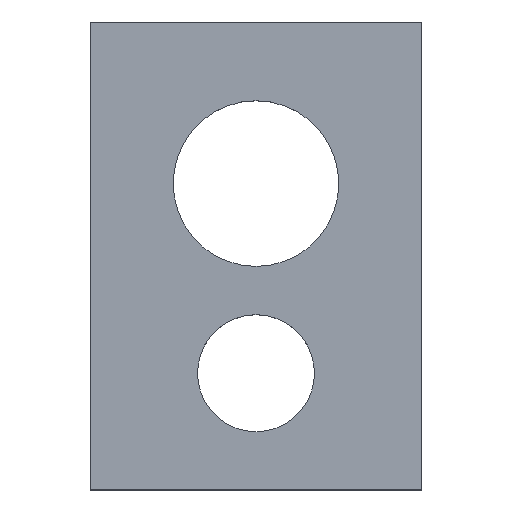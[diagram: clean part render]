
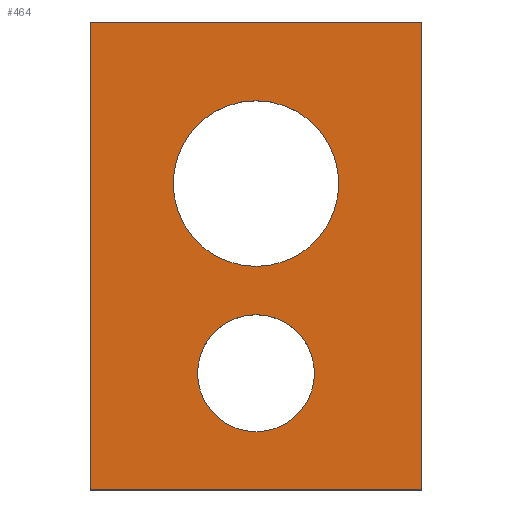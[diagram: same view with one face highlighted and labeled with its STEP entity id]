
A CAD part, top view. The second image highlights one B-rep face of the part: STEP entity #464.
In plain terms, the highlighted planar face has unit normal (0, 0, 1).
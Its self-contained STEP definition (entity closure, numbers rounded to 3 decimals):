
#10 = EDGE_LOOP ( 'NONE', ( #455, #436 ) ) ;
#21 = AXIS2_PLACEMENT_3D ( 'NONE', #239, #498, #207 ) ;
#26 = CARTESIAN_POINT ( 'NONE',  ( 1.7, -2.4, 0.5 ) ) ;
#40 = ORIENTED_EDGE ( 'NONE', *, *, #429, .T. ) ;
#61 = DIRECTION ( 'NONE',  ( 0., 0., 1. ) ) ;
#62 = CIRCLE ( 'NONE', #163, 0.85 ) ;
#64 = DIRECTION ( 'NONE',  ( 1., 0., 0. ) ) ;
#80 = AXIS2_PLACEMENT_3D ( 'NONE', #130, #212, #172 ) ;
#84 = CARTESIAN_POINT ( 'NONE',  ( 0., 0., 0.5 ) ) ;
#96 = CARTESIAN_POINT ( 'NONE',  ( 1.7, 2.4, 0.5 ) ) ;
#98 = CARTESIAN_POINT ( 'NONE',  ( 1.7, 2.4, 0.5 ) ) ;
#101 = EDGE_CURVE ( 'NONE', #323, #206, #279, .T. ) ;
#104 = ORIENTED_EDGE ( 'NONE', *, *, #443, .T. ) ;
#110 = DIRECTION ( 'NONE',  ( 0., 0., 1. ) ) ;
#116 = CARTESIAN_POINT ( 'NONE',  ( -1.7, 2.4, 0.5 ) ) ;
#120 = CARTESIAN_POINT ( 'NONE',  ( -0.6, -1.204, 0.5 ) ) ;
#121 = CARTESIAN_POINT ( 'NONE',  ( 0.85, 0.742, 0.5 ) ) ;
#127 = PLANE ( 'NONE',  #454 ) ;
#130 = CARTESIAN_POINT ( 'NONE',  ( 0., -1.204, 0.5 ) ) ;
#132 = DIRECTION ( 'NONE',  ( 0., -1., 0. ) ) ;
#134 = DIRECTION ( 'NONE',  ( 1., 0., 0. ) ) ;
#141 = EDGE_CURVE ( 'NONE', #440, #326, #315, .T. ) ;
#156 = CIRCLE ( 'NONE', #21, 0.6 ) ;
#163 = AXIS2_PLACEMENT_3D ( 'NONE', #264, #61, #64 ) ;
#170 = VERTEX_POINT ( 'NONE', #335 ) ;
#172 = DIRECTION ( 'NONE',  ( 1., 0., 0. ) ) ;
#174 = FACE_BOUND ( 'NONE', #381, .T. ) ;
#175 = AXIS2_PLACEMENT_3D ( 'NONE', #179, #110, #269 ) ;
#179 = CARTESIAN_POINT ( 'NONE',  ( 0., 0.742, 0.5 ) ) ;
#195 = LINE ( 'NONE', #281, #223 ) ;
#196 = EDGE_CURVE ( 'NONE', #170, #339, #62, .T. ) ;
#206 = VERTEX_POINT ( 'NONE', #350 ) ;
#207 = DIRECTION ( 'NONE',  ( 1., 0., 0. ) ) ;
#212 = DIRECTION ( 'NONE',  ( 0., 0., 1. ) ) ;
#223 = VECTOR ( 'NONE', #446, 1000. ) ;
#234 = LINE ( 'NONE', #487, #390 ) ;
#239 = CARTESIAN_POINT ( 'NONE',  ( 0., -1.204, 0.5 ) ) ;
#242 = ORIENTED_EDGE ( 'NONE', *, *, #141, .F. ) ;
#248 = DIRECTION ( 'NONE',  ( 0., 0., 1. ) ) ;
#249 = EDGE_CURVE ( 'NONE', #252, #323, #477, .T. ) ;
#252 = VERTEX_POINT ( 'NONE', #98 ) ;
#256 = EDGE_CURVE ( 'NONE', #339, #170, #268, .T. ) ;
#261 = DIRECTION ( 'NONE',  ( -1., 0., 0. ) ) ;
#262 = VECTOR ( 'NONE', #132, 1000. ) ;
#264 = CARTESIAN_POINT ( 'NONE',  ( 0., 0.742, 0.5 ) ) ;
#268 = CIRCLE ( 'NONE', #175, 0.85 ) ;
#269 = DIRECTION ( 'NONE',  ( 1., 0., 0. ) ) ;
#279 = LINE ( 'NONE', #415, #262 ) ;
#281 = CARTESIAN_POINT ( 'NONE',  ( -1.7, -2.4, 0.5 ) ) ;
#312 = VERTEX_POINT ( 'NONE', #26 ) ;
#315 = CIRCLE ( 'NONE', #80, 0.6 ) ;
#323 = VERTEX_POINT ( 'NONE', #116 ) ;
#326 = VERTEX_POINT ( 'NONE', #406 ) ;
#335 = CARTESIAN_POINT ( 'NONE',  ( -0.85, 0.742, 0.5 ) ) ;
#339 = VERTEX_POINT ( 'NONE', #121 ) ;
#350 = CARTESIAN_POINT ( 'NONE',  ( -1.7, -2.4, 0.5 ) ) ;
#369 = FACE_OUTER_BOUND ( 'NONE', #500, .T. ) ;
#381 = EDGE_LOOP ( 'NONE', ( #242, #399 ) ) ;
#390 = VECTOR ( 'NONE', #403, 1000. ) ;
#399 = ORIENTED_EDGE ( 'NONE', *, *, #450, .F. ) ;
#403 = DIRECTION ( 'NONE',  ( 0., 1., 0. ) ) ;
#406 = CARTESIAN_POINT ( 'NONE',  ( 0.6, -1.204, 0.5 ) ) ;
#415 = CARTESIAN_POINT ( 'NONE',  ( -1.7, 2.4, 0.5 ) ) ;
#419 = FACE_BOUND ( 'NONE', #10, .T. ) ;
#429 = EDGE_CURVE ( 'NONE', #312, #252, #234, .T. ) ;
#436 = ORIENTED_EDGE ( 'NONE', *, *, #256, .F. ) ;
#440 = VERTEX_POINT ( 'NONE', #120 ) ;
#443 = EDGE_CURVE ( 'NONE', #206, #312, #195, .T. ) ;
#446 = DIRECTION ( 'NONE',  ( 1., 0., 0. ) ) ;
#450 = EDGE_CURVE ( 'NONE', #326, #440, #156, .T. ) ;
#453 = ORIENTED_EDGE ( 'NONE', *, *, #101, .T. ) ;
#454 = AXIS2_PLACEMENT_3D ( 'NONE', #84, #248, #134 ) ;
#455 = ORIENTED_EDGE ( 'NONE', *, *, #196, .F. ) ;
#459 = ORIENTED_EDGE ( 'NONE', *, *, #249, .T. ) ;
#464 = ADVANCED_FACE ( 'NONE', ( #419, #174, #369 ), #127, .T. ) ;
#477 = LINE ( 'NONE', #96, #499 ) ;
#487 = CARTESIAN_POINT ( 'NONE',  ( 1.7, -2.4, 0.5 ) ) ;
#498 = DIRECTION ( 'NONE',  ( 0., 0., 1. ) ) ;
#499 = VECTOR ( 'NONE', #261, 1000. ) ;
#500 = EDGE_LOOP ( 'NONE', ( #40, #459, #453, #104 ) ) ;
